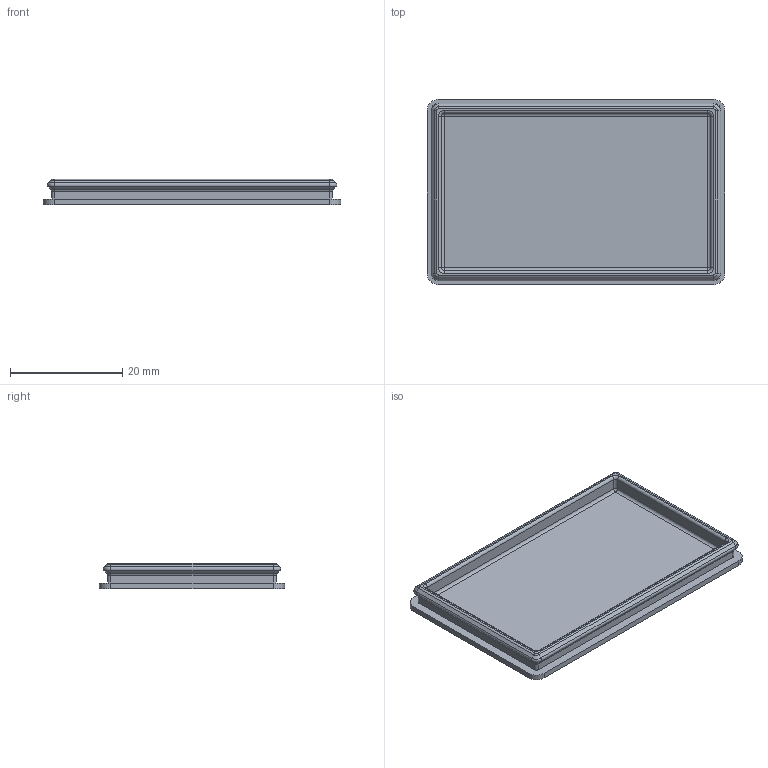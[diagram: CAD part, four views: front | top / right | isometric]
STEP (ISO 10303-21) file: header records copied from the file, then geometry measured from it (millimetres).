
FILE_DESCRIPTION (( 'STEP AP214' ), '1' );
FILE_NAME ('Çàãëóøêà áàòàðåè.STEP', '2021-11-10T11:30:29', ( 'j03075@gmail.com' ), ( '' ), 'SwSTEP 2.0', 'SolidWorks 2021', '' );
FILE_SCHEMA (( 'AUTOMOTIVE_DESIGN' ));
Length unit declared in the file: millimetre
Products named in the file (1): Çàãëóøêà áàòàðåè
Bounding box: 53 x 33 x 4.5 mm (x, y, z)
Volume: 3115.8 mm3; surface area: 4703.5 mm2
Topology: 1 solids, 1 shells, 84 faces, 184 edges, 100 vertices
Faces by surface type: cylinder 32, plane 24, torus 16, cone 8, sphere 4
Entity records: 2266 total; most frequent: DIRECTION 438, CARTESIAN_POINT 365, ORIENTED_EDGE 360, EDGE_CURVE 180, AXIS2_PLACEMENT_3D 173, VERTEX_POINT 100, LINE 92, VECTOR 92
